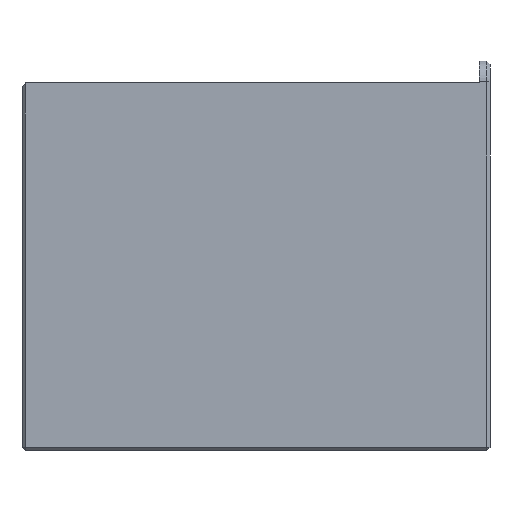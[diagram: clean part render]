
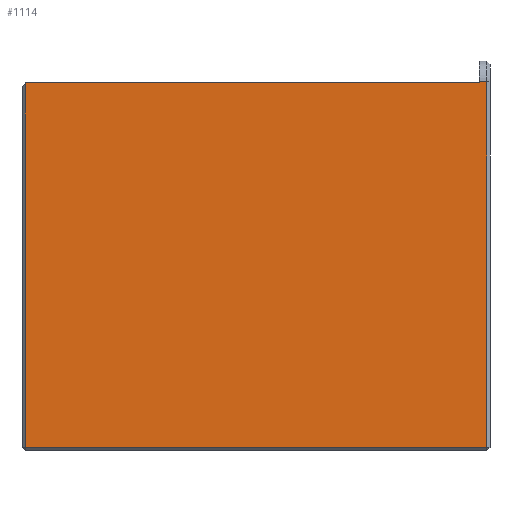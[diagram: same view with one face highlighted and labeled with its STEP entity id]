
A CAD part, front view. The second image highlights one B-rep face of the part: STEP entity #1114.
In plain terms, the highlighted planar face has unit normal (0, -1, 0).
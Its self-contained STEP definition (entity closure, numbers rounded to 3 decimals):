
#88=LINE('',#1723,#210);
#91=LINE('',#1727,#213);
#111=LINE('',#1768,#233);
#175=LINE('',#1934,#297);
#178=LINE('',#1943,#300);
#182=LINE('',#1951,#304);
#210=VECTOR('',#1274,10.);
#213=VECTOR('',#1279,10.);
#233=VECTOR('',#1321,10.);
#297=VECTOR('',#1497,10.);
#300=VECTOR('',#1506,10.);
#304=VECTOR('',#1518,10.);
#350=PLANE('',#1217);
#414=FACE_OUTER_BOUND('',#478,.T.);
#478=EDGE_LOOP('',(#1043,#1044,#1045,#1046,#1047,#1048));
#512=VERTEX_POINT('',#1700);
#516=VERTEX_POINT('',#1709);
#519=VERTEX_POINT('',#1716);
#521=VERTEX_POINT('',#1721);
#576=VERTEX_POINT('',#1931);
#577=VERTEX_POINT('',#1933);
#620=EDGE_CURVE('',#521,#519,#88,.T.);
#623=EDGE_CURVE('',#519,#516,#91,.T.);
#645=EDGE_CURVE('',#516,#512,#111,.T.);
#727=EDGE_CURVE('',#577,#576,#175,.T.);
#732=EDGE_CURVE('',#576,#512,#178,.T.);
#736=EDGE_CURVE('',#521,#577,#182,.T.);
#1043=ORIENTED_EDGE('',*,*,#620,.F.);
#1044=ORIENTED_EDGE('',*,*,#736,.T.);
#1045=ORIENTED_EDGE('',*,*,#727,.T.);
#1046=ORIENTED_EDGE('',*,*,#732,.T.);
#1047=ORIENTED_EDGE('',*,*,#645,.F.);
#1048=ORIENTED_EDGE('',*,*,#623,.F.);
#1114=ADVANCED_FACE('',(#414),#350,.T.);
#1217=AXIS2_PLACEMENT_3D('',#1952,#1519,#1520);
#1274=DIRECTION('',(0.,0.,-1.));
#1279=DIRECTION('',(-1.,0.,0.));
#1321=DIRECTION('',(0.,0.,1.));
#1497=DIRECTION('',(0.,0.,-1.));
#1506=DIRECTION('',(-1.,0.,0.));
#1518=DIRECTION('',(-1.,0.,0.));
#1519=DIRECTION('center_axis',(0.,-1.,0.));
#1520=DIRECTION('ref_axis',(0.,0.,1.));
#1700=CARTESIAN_POINT('',(-106.75,35.25,129.75));
#1709=CARTESIAN_POINT('',(-106.75,35.25,46.));
#1716=CARTESIAN_POINT('',(-0.75,35.25,46.));
#1721=CARTESIAN_POINT('',(-0.75,35.25,130.));
#1723=CARTESIAN_POINT('',(-0.75,35.25,67.625));
#1727=CARTESIAN_POINT('',(0.,35.25,46.));
#1768=CARTESIAN_POINT('',(-106.75,35.25,66.438));
#1931=CARTESIAN_POINT('',(-2.5,35.25,129.75));
#1933=CARTESIAN_POINT('',(-2.5,35.25,130.));
#1934=CARTESIAN_POINT('',(-2.5,35.25,85.625));
#1943=CARTESIAN_POINT('',(-1.5,35.25,129.75));
#1951=CARTESIAN_POINT('',(0.,35.25,130.));
#1952=CARTESIAN_POINT('Origin',(0.,35.25,45.25));
